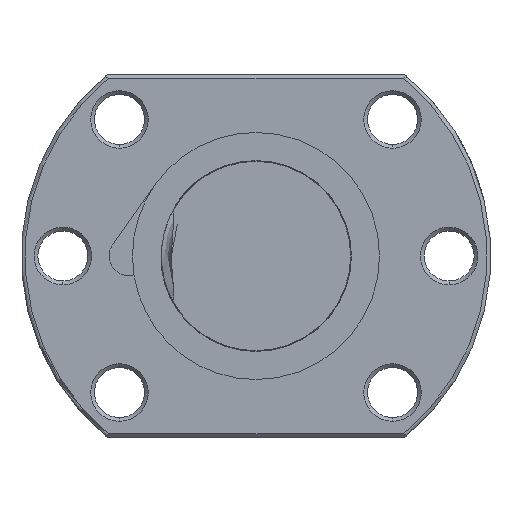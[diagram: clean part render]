
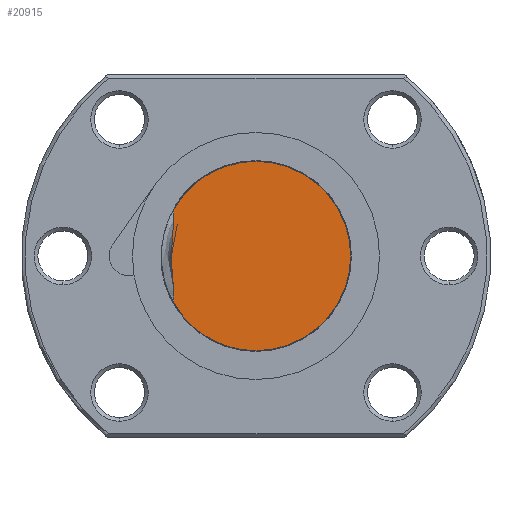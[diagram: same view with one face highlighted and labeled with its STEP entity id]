
A CAD part, left-side view. The second image highlights one B-rep face of the part: STEP entity #20915.
In plain terms, the highlighted planar face has unit normal (-1, 0, 0).
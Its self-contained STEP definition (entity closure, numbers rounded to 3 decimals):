
#6064 = DIRECTION ( 'NONE',  ( 0., 1., 0. ) ) ;
#6065 = DIRECTION ( 'NONE',  ( 1., 0., 0. ) ) ;
#6066 = CARTESIAN_POINT ( 'NONE',  ( -220., 0., 0. ) ) ;
#6067 = AXIS2_PLACEMENT_3D ( 'NONE', #6066, #6065, #6064 ) ;
#6068 = CIRCLE ( 'NONE', #6067, 12.5 ) ;
#6070 = CARTESIAN_POINT ( 'NONE',  ( -220., 0., -12.5 ) ) ;
#6156 = CARTESIAN_POINT ( 'NONE',  ( -220., 10.939, -6.048 ) ) ;
#6201 = CARTESIAN_POINT ( 'NONE',  ( -220., 0., 12.5 ) ) ;
#6202 = CARTESIAN_POINT ( 'NONE',  ( -220., 10.939, 6.048 ) ) ;
#6203 = DIRECTION ( 'NONE',  ( 0., 1., 0. ) ) ;
#6204 = DIRECTION ( 'NONE',  ( 1., 0., 0. ) ) ;
#6205 = AXIS2_PLACEMENT_3D ( 'NONE', #6210, #6204, #6203 ) ;
#6206 = CIRCLE ( 'NONE', #6205, 12.5 ) ;
#6210 = CARTESIAN_POINT ( 'NONE',  ( -220., 0., 0. ) ) ;
#7214 = CARTESIAN_POINT ( 'NONE',  ( -220., 10.939, -6.048 ) ) ;
#7215 = CARTESIAN_POINT ( 'NONE',  ( -220., 10.888, -5.931 ) ) ;
#7216 = CARTESIAN_POINT ( 'NONE',  ( -220., 10.864, -5.804 ) ) ;
#7217 = CARTESIAN_POINT ( 'NONE',  ( -220., 10.834, -5.553 ) ) ;
#7218 = CARTESIAN_POINT ( 'NONE',  ( -220., 10.829, -5.426 ) ) ;
#7219 = CARTESIAN_POINT ( 'NONE',  ( -220., 10.83, -5.044 ) ) ;
#7220 = CARTESIAN_POINT ( 'NONE',  ( -220., 10.849, -4.792 ) ) ;
#7221 = CARTESIAN_POINT ( 'NONE',  ( -220., 10.918, -4.035 ) ) ;
#7222 = CARTESIAN_POINT ( 'NONE',  ( -220., 10.981, -3.532 ) ) ;
#7223 = CARTESIAN_POINT ( 'NONE',  ( -220., 11.088, -2.524 ) ) ;
#7224 = CARTESIAN_POINT ( 'NONE',  ( -220., 11.134, -2.019 ) ) ;
#7225 = CARTESIAN_POINT ( 'NONE',  ( -220., 11.196, -1.008 ) ) ;
#7226 = CARTESIAN_POINT ( 'NONE',  ( -220., 11.212, -0.501 ) ) ;
#7227 = CARTESIAN_POINT ( 'NONE',  ( -220., 11.211, 0.51 ) ) ;
#7228 = CARTESIAN_POINT ( 'NONE',  ( -220., 11.195, 1.014 ) ) ;
#7229 = CARTESIAN_POINT ( 'NONE',  ( -220., 11.133, 2.023 ) ) ;
#7230 = CARTESIAN_POINT ( 'NONE',  ( -220., 11.088, 2.527 ) ) ;
#7231 = CARTESIAN_POINT ( 'NONE',  ( -220., 10.982, 3.533 ) ) ;
#7232 = CARTESIAN_POINT ( 'NONE',  ( -220., 10.919, 4.036 ) ) ;
#7233 = CARTESIAN_POINT ( 'NONE',  ( -220., 10.85, 4.792 ) ) ;
#7234 = CARTESIAN_POINT ( 'NONE',  ( -220., 10.831, 5.044 ) ) ;
#7235 = CARTESIAN_POINT ( 'NONE',  ( -220., 10.83, 5.425 ) ) ;
#7240 = CARTESIAN_POINT ( 'NONE',  ( -220., 10.834, 5.553 ) ) ;
#7241 = CARTESIAN_POINT ( 'NONE',  ( -220., 10.864, 5.805 ) ) ;
#7242 = CARTESIAN_POINT ( 'NONE',  ( -220., 10.888, 5.931 ) ) ;
#7243 = CARTESIAN_POINT ( 'NONE',  ( -220., 10.939, 6.048 ) ) ;
#7245 = B_SPLINE_CURVE_WITH_KNOTS ( 'NONE', 3,
 ( #7243, #7242, #7241, #7240, #7235, #7234, #7233, #7232, #7231, #7230, #7229, #7228, #7227, #7226, #7225, #7224, #7223, #7222, #7221, #7220, #7219, #7218, #7217, #7216, #7215, #7214 ),
 .UNSPECIFIED., .F., .F.,
 ( 4, 2, 2, 2, 2, 2, 2, 2, 2, 2, 2, 2, 4 ),
 ( 0.002, 0.003, 0.003, 0.004, 0.005, 0.007, 0.008, 0.01, 0.011, 0.013, 0.014, 0.014, 0.014 ),
 .UNSPECIFIED. ) ;
#7247 = DIRECTION ( 'NONE',  ( 0., 0., -1. ) ) ;
#7248 = DIRECTION ( 'NONE',  ( 1., 0., 0. ) ) ;
#7249 = CARTESIAN_POINT ( 'NONE',  ( -220., 0., 0. ) ) ;
#7250 = AXIS2_PLACEMENT_3D ( 'NONE', #7249, #7248, #7247 ) ;
#7251 = PLANE ( 'NONE',  #7250 ) ;
#7252 = FACE_OUTER_BOUND ( 'NONE', #20916, .T. ) ;
#18901 = DIRECTION ( 'NONE',  ( 0., 1., 0. ) ) ;
#18902 = DIRECTION ( 'NONE',  ( 1., 0., 0. ) ) ;
#18903 = CARTESIAN_POINT ( 'NONE',  ( -220., 0., 0. ) ) ;
#18904 = AXIS2_PLACEMENT_3D ( 'NONE', #18903, #18902, #18901 ) ;
#18905 = CIRCLE ( 'NONE', #18904, 12.5 ) ;
#20692 = EDGE_CURVE ( 'NONE', #20693, #20694, #6206, .T. ) ;
#20693 = VERTEX_POINT ( 'NONE', #6202 ) ;
#20694 = VERTEX_POINT ( 'NONE', #6201 ) ;
#20707 = VERTEX_POINT ( 'NONE', #6156 ) ;
#20716 = VERTEX_POINT ( 'NONE', #6070 ) ;
#20718 = EDGE_CURVE ( 'NONE', #20716, #20707, #6068, .T. ) ;
#20915 = ADVANCED_FACE ( 'NONE', ( #7252 ), #7251, .F. ) ;
#20916 = EDGE_LOOP ( 'NONE', ( #20917, #20918, #20920, #20921 ) ) ;
#20917 = ORIENTED_EDGE ( 'NONE', *, *, #20692, .F. ) ;
#20918 = ORIENTED_EDGE ( 'NONE', *, *, #20919, .T. ) ;
#20919 = EDGE_CURVE ( 'NONE', #20693, #20707, #7245, .T. ) ;
#20920 = ORIENTED_EDGE ( 'NONE', *, *, #20718, .F. ) ;
#20921 = ORIENTED_EDGE ( 'NONE', *, *, #21030, .F. ) ;
#21030 = EDGE_CURVE ( 'NONE', #20694, #20716, #18905, .T. ) ;
